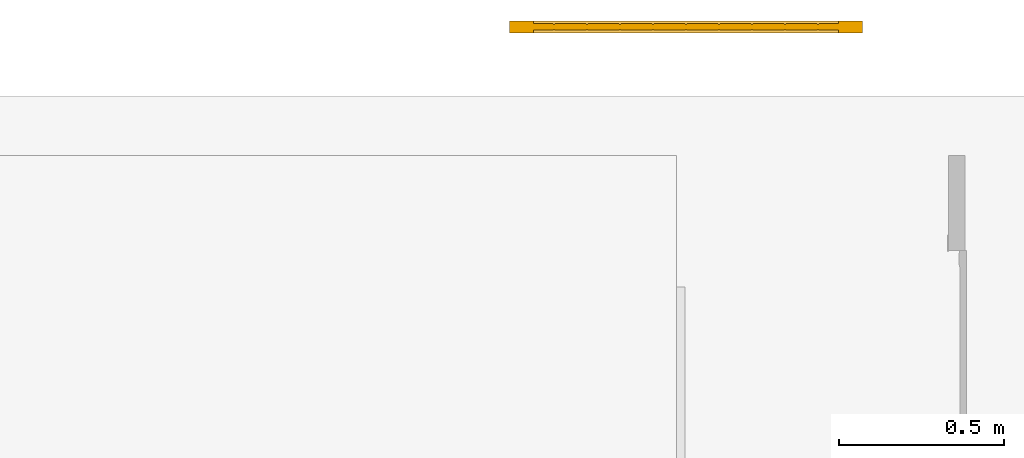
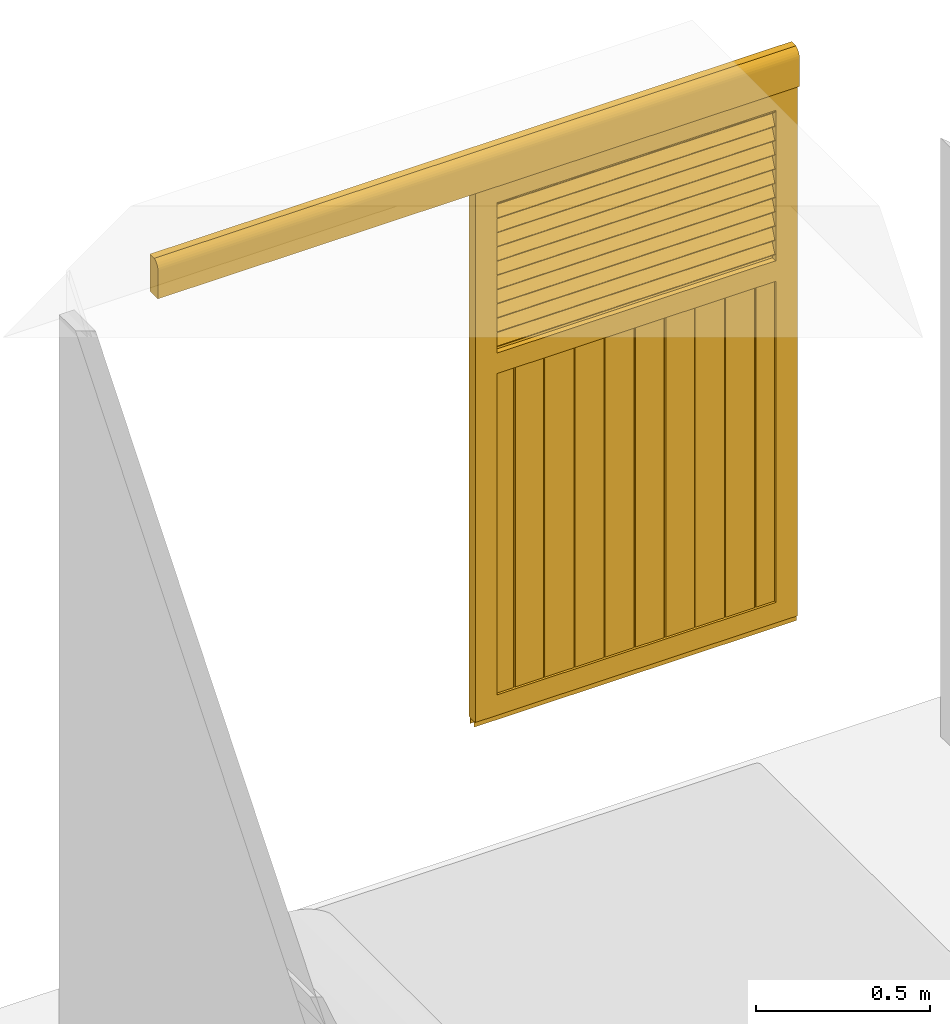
# One storey, part 8 of 11: 1 door.
"""IFC2X3 building model written with IfcOpenShell, lengths in metres."""

import ifcopenshell
import ifcopenshell.guid

model = None  # the IFC model being written
_history = None  # IfcOwnerHistory: only IFC2X3 demands one
_inside = {}  # id of a spatial element -> (the spatial element, [elements in it])
_under = {}  # id of a project, library or spatial element -> (it, [spatial elements below it])
_declared = {}  # id of a project -> (the project, [libraries it declares])
_typed = {}  # id of a type object -> (the type object, [elements of that type])
_made_of = {}  # id of a material, layer set ... -> (it, [elements and type objects made of it])


def new_model(schema):
    """Start an empty IFC model of exactly this schema.

    Asked for "IFC4X3", IfcOpenShell would pick the latest addendum, in which some entities
    have other attributes; the version numbers below select the first issue.
    IFC2X3 requires an IfcOwnerHistory on every rooted entity: one is made here for all.
    """
    global model, _history
    if schema == "IFC4X3":
        model = ifcopenshell.file(schema_version=(4, 3, 0, 0))
    else:
        model = ifcopenshell.file(schema=schema)
    _inside.clear()
    _under.clear()
    _declared.clear()
    _typed.clear()
    _made_of.clear()
    _history = None
    if model.schema == "IFC2X3":
        org = make("IfcOrganization", Name="unknown")
        user = make(
            "IfcPersonAndOrganization",
            ThePerson=make("IfcPerson", FamilyName="unknown"),
            TheOrganization=org,
        )
        app = make(
            "IfcApplication",
            ApplicationDeveloper=org,
            Version="unknown",
            ApplicationFullName="unknown",
            ApplicationIdentifier="unknown",
        )
        _history = make(
            "IfcOwnerHistory",
            OwningUser=user,
            OwningApplication=app,
            ChangeAction="ADDED",
            CreationDate=0,
        )
    return model


def make(cls, **values):
    """One entity of the class cls with the attributes given. An attribute that is None is left unset."""
    return model.create_entity(
        cls, **{name: value for name, value in values.items() if value is not None}
    )


def entity(cls, *values):
    """Any entity or typed value of the class cls, its attributes in the order of the schema. None: left unset."""
    e = model.create_entity(cls)
    for i, value in enumerate(values):
        if value is not None:
            e[i] = value
    return e


def rooted(cls, **values):
    """An entity with a GlobalId (a new one), such as an element, a storey or a relation."""
    return make(cls, GlobalId=ifcopenshell.guid.new(), OwnerHistory=_history, **values)


def si_unit(unit_type, name, prefix=None):
    """IfcSIUnit, for example si_unit("LENGTHUNIT", "METRE", prefix="MILLI")."""
    return make("IfcSIUnit", UnitType=unit_type, Prefix=prefix, Name=name)


def converted_unit(unit_type, name, factor, base, dimensions=None, offset=None):
    """IfcConversionBasedUnit, such as the inch: factor (a typed value) times the base unit."""
    return make(
        "IfcConversionBasedUnit"
        if offset is None
        else "IfcConversionBasedUnitWithOffset",
        ConversionOffset=offset,
        Dimensions=None
        if dimensions is None
        else entity("IfcDimensionalExponents", *dimensions),
        UnitType=unit_type,
        Name=name,
        ConversionFactor=make(
            "IfcMeasureWithUnit", ValueComponent=factor, UnitComponent=base
        ),
    )


def derived_unit(unit_type, elements):
    """IfcDerivedUnit: a product of units, each with its exponent."""
    return make(
        "IfcDerivedUnit",
        Elements=[
            make("IfcDerivedUnitElement", Unit=unit, Exponent=power)
            for unit, power in elements
        ],
        UnitType=unit_type,
    )


def assignment(units):
    """IfcUnitAssignment: the units of a project."""
    return None if units is None else make("IfcUnitAssignment", Units=units)


def point(xyz):
    """IfcCartesianPoint."""
    return None if xyz is None else make("IfcCartesianPoint", Coordinates=xyz)


def direction(xyz):
    """IfcDirection."""
    return None if xyz is None else make("IfcDirection", DirectionRatios=xyz)


def frame(location, z_axis=None, x_axis=None):
    """IfcAxis2Placement3D, a coordinate frame: its origin and axes. An axis left out is left unset."""
    return make(
        "IfcAxis2Placement3D",
        Location=point(location),
        Axis=direction(z_axis),
        RefDirection=direction(x_axis),
    )


def frame_2d(location, x_axis=None):
    """IfcAxis2Placement2D, a coordinate frame in the plane: its origin and x axis."""
    return make(
        "IfcAxis2Placement2D", Location=point(location), RefDirection=direction(x_axis)
    )


def origin():
    """The frame at (0, 0, 0) with its axes left unset."""
    return frame((0.0, 0.0, 0.0))


def origin_2d_with_axis():
    """The frame at (0, 0) in the plane with the x axis (1, 0) written out."""
    return frame_2d((0.0, 0.0), x_axis=(1.0, 0.0))


def place(relative_to, where):
    """IfcLocalPlacement: puts the frame where relative to a parent placement (None: the world)."""
    return make(
        "IfcLocalPlacement", PlacementRelTo=relative_to, RelativePlacement=where
    )


def context(
    kind, dimensions, precision=None, world=None, true_north=None, identifier=None
):
    """IfcGeometricRepresentationContext, for example the 3D "Model" context."""
    return make(
        "IfcGeometricRepresentationContext",
        ContextIdentifier=identifier,
        ContextType=kind,
        CoordinateSpaceDimension=dimensions,
        Precision=precision,
        WorldCoordinateSystem=world,
        TrueNorth=true_north,
    )


def subcontext(parent, identifier, kind, view, scale=None):
    """IfcGeometricRepresentationSubContext, for example "Body" below "Model"."""
    return make(
        "IfcGeometricRepresentationSubContext",
        ContextIdentifier=identifier,
        ContextType=kind,
        ParentContext=parent,
        TargetScale=scale,
        TargetView=view,
    )


def project(units=None, contexts=None):
    """IfcProject with its units and contexts."""
    return rooted(
        "IfcProject",
        Name="project",
        RepresentationContexts=contexts,
        UnitsInContext=assignment(units),
    )


def spatial(cls, under=None, at=None, **own):
    """A site, building, storey or space (cls), placed at a placement, below another one or the project."""
    s = rooted(cls, ObjectPlacement=at, **own)
    if under is not None:
        _under.setdefault(under.id(), (under, []))[1].append(s)
    return s


def polyline(points):
    """IfcPolyline through the points."""
    return make("IfcPolyline", Points=[point(p) for p in points])


def circle_curve(where, radius):
    """IfcCircle in the frame where."""
    return make("IfcCircle", Position=where, Radius=radius)


def parameter(value):
    """IfcParameterValue: where a trimmed curve begins or ends, as a parameter of its basis curve."""
    return model.create_entity("IfcParameterValue", value)


def trimmed(basis, trim1, trim2, sense, master):
    """IfcTrimmedCurve: the piece of a basis curve between two trims."""
    return make(
        "IfcTrimmedCurve",
        BasisCurve=basis,
        Trim1=trim1,
        Trim2=trim2,
        SenseAgreement=sense,
        MasterRepresentation=master,
    )


def segment(curve, same_sense, transition):
    """IfcCompositeCurveSegment."""
    return make(
        "IfcCompositeCurveSegment",
        Transition=transition,
        SameSense=same_sense,
        ParentCurve=curve,
    )


def composite_curve(segments, self_intersect=None):
    """IfcCompositeCurve: segments joined end to end."""
    return make("IfcCompositeCurve", Segments=segments, SelfIntersect=self_intersect)


def profile(cls, at=None, kind="AREA", **sizes):
    """A parametric profile (cls). Its sizes go by their IFC names, for example OverallWidth=200.0."""
    return make(cls, ProfileType=kind, Position=at, **sizes)


def rectangle(**sizes):
    """IfcRectangleProfileDef."""
    return profile("IfcRectangleProfileDef", **sizes)


def outline(outer, holes=None, kind="AREA"):
    """IfcArbitraryClosedProfileDef: a profile drawn as a closed curve; with holes, ...WithVoids."""
    if holes is None:
        return make("IfcArbitraryClosedProfileDef", ProfileType=kind, OuterCurve=outer)
    return make(
        "IfcArbitraryProfileDefWithVoids",
        ProfileType=kind,
        OuterCurve=outer,
        InnerCurves=holes,
    )


def extrude(swept, where, along, depth):
    """IfcExtrudedAreaSolid: the profile swept, set in the frame where, extruded along a direction by depth."""
    return make(
        "IfcExtrudedAreaSolid",
        SweptArea=swept,
        Position=where,
        ExtrudedDirection=direction(along),
        Depth=depth,
    )


def shape(context_of_items, identifier, shape_type, items):
    """IfcShapeRepresentation: the items that make up one representation, for example the "Body"."""
    return make(
        "IfcShapeRepresentation",
        ContextOfItems=context_of_items,
        RepresentationIdentifier=identifier,
        RepresentationType=shape_type,
        Items=items,
    )


def source(mapping_origin, context_of_items, identifier, shape_type, items):
    """IfcRepresentationMap: a shape defined once, which mapped items show again and again."""
    return make(
        "IfcRepresentationMap",
        MappingOrigin=mapping_origin,
        MappedRepresentation=shape(context_of_items, identifier, shape_type, items),
    )


def transform(
    local_origin,
    x_axis=None,
    y_axis=None,
    z_axis=None,
    scale=None,
    scale2=None,
    scale3=None,
    uniform=True,
):
    """IfcCartesianTransformationOperator3D, or its non-uniform kind. x_axis, y_axis, z_axis: its Axis1, 2, 3."""
    if uniform:
        return make(
            "IfcCartesianTransformationOperator3D",
            Axis1=direction(x_axis),
            Axis2=direction(y_axis),
            LocalOrigin=point(local_origin),
            Scale=scale,
            Axis3=direction(z_axis),
        )
    return make(
        "IfcCartesianTransformationOperator3DnonUniform",
        Axis1=direction(x_axis),
        Axis2=direction(y_axis),
        LocalOrigin=point(local_origin),
        Scale=scale,
        Axis3=direction(z_axis),
        Scale2=scale2,
        Scale3=scale3,
    )


def mapped(mapping_source, mapping_target):
    """IfcMappedItem: shows the shape of a source again, moved by a transform."""
    return make(
        "IfcMappedItem", MappingSource=mapping_source, MappingTarget=mapping_target
    )


def material(Name=None, Category=None):
    """IfcMaterial."""
    return make("IfcMaterial", Name=Name, Category=Category)


def made_of(thing, what):
    """Note that an element or type object is made of a material, layer set ...; save() writes the relation."""
    if what is not None:
        _made_of.setdefault(what.id(), (what, []))[1].append(thing)
    return thing


def type_object(cls, material=None, **own):
    """A type object (cls), such as IfcWallType, which elements share."""
    return made_of(rooted(cls, **own), material)


def type_shapes(of_type, sources):
    """Give a type object the sources (RepresentationMaps) that its elements show as mapped items."""
    of_type.RepresentationMaps = sources


def element(
    cls,
    number,
    at=None,
    inside=None,
    cuts=None,
    type_object=None,
    material=None,
    context=None,
    identifier="Body",
    shape_type=None,
    held_by="IfcProductDefinitionShape",
    body=None,
    shapes=None,
    **own,
):
    """One element of the class cls, such as IfcWall. Its Tag is "e" and its number.

    at: its placement. inside: the storey or other place that contains it. cuts: it is an
    opening in that element (IfcRelVoidsElement). A single representation is given by context,
    identifier, shape_type and body (its items); several are given by shapes. held_by: the class
    of the entity that holds the representations. save() writes the other relations.
    """
    e = rooted(cls, Tag="e%d" % number, ObjectPlacement=at, **own)
    if body is not None:
        shapes = [shape(context, identifier, shape_type, body)]
    if shapes is not None:
        e.Representation = make(held_by, Representations=shapes)
    if inside is not None:
        _inside.setdefault(inside.id(), (inside, []))[1].append(e)
    if cuts is not None:
        rooted(
            "IfcRelVoidsElement", RelatingBuildingElement=cuts, RelatedOpeningElement=e
        )
    if type_object is not None:
        _typed.setdefault(type_object.id(), (type_object, []))[1].append(e)
    return made_of(e, material)


def aggregate(whole, parts):
    """IfcRelAggregates: a whole, such as a stair, and the parts it consists of."""
    return rooted("IfcRelAggregates", RelatingObject=whole, RelatedObjects=parts)


def save(model, path):
    """Write the relations noted so far, then the file.

    IfcRelAggregates (storeys below a building ...), IfcRelContainedInSpatialStructure (elements
    in a storey), IfcRelDefinesByType, IfcRelAssociatesMaterial and IfcRelDeclares: one each for
    every whole, place, type object, material and project.
    """
    for whole, parts in _under.values():
        aggregate(whole, parts)
    for where, things in _inside.values():
        rooted(
            "IfcRelContainedInSpatialStructure",
            RelatedElements=things,
            RelatingStructure=where,
        )
    for kind, things in _typed.values():
        rooted("IfcRelDefinesByType", RelatedObjects=things, RelatingType=kind)
    for what, things in _made_of.values():
        rooted("IfcRelAssociatesMaterial", RelatedObjects=things, RelatingMaterial=what)
    for by, libraries in _declared.values():
        rooted("IfcRelDeclares", RelatingContext=by, RelatedDefinitions=libraries)
    model.write(path)


model = new_model("IFC2X3")

# Units and contexts
model_context = context("Model", 3, precision=1e-05, world=origin(), true_north=direction((6.12303176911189e-17, 1.0)))
body_context = subcontext(model_context, "Body", "Model", "MODEL_VIEW")
ifc_project = project(units=[si_unit("LENGTHUNIT", "METRE"), si_unit("AREAUNIT", "SQUARE_METRE"), si_unit("VOLUMEUNIT", "CUBIC_METRE"), converted_unit("PLANEANGLEUNIT", "DEGREE", entity("IfcRatioMeasure", 0.0174532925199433), si_unit("PLANEANGLEUNIT", "RADIAN"), dimensions=[0, 0, 0, 0, 0, 0, 0]), si_unit("MASSUNIT", "GRAM", prefix="KILO"), derived_unit("MASSDENSITYUNIT", [(si_unit("MASSUNIT", "GRAM", prefix="KILO"), 1), (si_unit("LENGTHUNIT", "METRE"), -3)]), derived_unit("MOMENTOFINERTIAUNIT", [(si_unit("LENGTHUNIT", "METRE"), 4)]), si_unit("TIMEUNIT", "SECOND"), si_unit("FREQUENCYUNIT", "HERTZ"), si_unit("THERMODYNAMICTEMPERATUREUNIT", "DEGREE_CELSIUS"), derived_unit("THERMALTRANSMITTANCEUNIT", [(si_unit("MASSUNIT", "GRAM", prefix="KILO"), 1), (si_unit("THERMODYNAMICTEMPERATUREUNIT", "KELVIN"), -1), (si_unit("TIMEUNIT", "SECOND"), -3)]), derived_unit("VOLUMETRICFLOWRATEUNIT", [(si_unit("LENGTHUNIT", "METRE"), 3), (si_unit("TIMEUNIT", "SECOND"), -1)]), si_unit("ELECTRICCURRENTUNIT", "AMPERE"), si_unit("ELECTRICVOLTAGEUNIT", "VOLT"), si_unit("POWERUNIT", "WATT"), si_unit("FORCEUNIT", "NEWTON", prefix="KILO"), si_unit("ILLUMINANCEUNIT", "LUX"), si_unit("LUMINOUSFLUXUNIT", "LUMEN"), si_unit("LUMINOUSINTENSITYUNIT", "CANDELA"), derived_unit("USERDEFINED", [(si_unit("MASSUNIT", "GRAM", prefix="KILO"), -1), (si_unit("LENGTHUNIT", "METRE"), -2), (si_unit("TIMEUNIT", "SECOND"), 3), (si_unit("LUMINOUSFLUXUNIT", "LUMEN"), 1)]), derived_unit("LINEARVELOCITYUNIT", [(si_unit("LENGTHUNIT", "METRE"), 1), (si_unit("TIMEUNIT", "SECOND"), -1)]), si_unit("PRESSUREUNIT", "PASCAL"), derived_unit("USERDEFINED", [(si_unit("LENGTHUNIT", "METRE"), -2), (si_unit("MASSUNIT", "GRAM", prefix="KILO"), 1), (si_unit("TIMEUNIT", "SECOND"), -2)]), derived_unit("LINEARFORCEUNIT", [(si_unit("MASSUNIT", "GRAM", prefix="KILO"), 1), (si_unit("LENGTHUNIT", "METRE"), 1), (si_unit("TIMEUNIT", "SECOND"), -2), (si_unit("LENGTHUNIT", "METRE"), -1)]), derived_unit("PLANARFORCEUNIT", [(si_unit("MASSUNIT", "GRAM", prefix="KILO"), 1), (si_unit("LENGTHUNIT", "METRE"), 1), (si_unit("TIMEUNIT", "SECOND"), -2), (si_unit("LENGTHUNIT", "METRE"), -2)])], contexts=[model_context])

# Site, building, storey
site_placement = place(None, origin())
site = spatial("IfcSite", under=ifc_project, at=site_placement, Name="Surface", CompositionType="ELEMENT")
building_placement = place(site_placement, origin())
building = spatial("IfcBuilding", under=site, at=building_placement, CompositionType="ELEMENT")
storey_placement = place(building_placement, frame((0.0, 0.0, 2.72)))
storey = spatial("IfcBuildingStorey", under=building, at=storey_placement, Name="02 ETG", CompositionType="ELEMENT", Elevation=2.72)

# Door
ifc_material = material(Name="FF bois RAL 5014")
door_style = type_object("IfcDoorStyle", Name="Volet coulissant ONDEA 1 vantail simple rail:Bois \"CONCEPTION WESTERN UNIQUEMENT\"", ConstructionType="NOTDEFINED", OperationType="NOTDEFINED", ParameterTakesPrecedence=False, Sizeable=False, material=ifc_material)
shared_shape = source(origin(), body_context, "Body", "SweptSolid", [
    extrude(outline(composite_curve([segment(trimmed(circle_curve(frame_2d((0.00932408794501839, 0.0279999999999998), x_axis=(1.0, 0.0)), 0.0319253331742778), [parameter(110.000000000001)], [parameter(180.0)], True, "PARAMETER"), True, "CONTINUOUS"), segment(polyline([(-0.0226012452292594, 0.0279999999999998), (-0.0226012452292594, -0.0719999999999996)]), True, "CONTINUOUS"), segment(polyline([(-0.0226012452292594, -0.0719999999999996), (0.0233987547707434, -0.0719999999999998)]), True, "CONTINUOUS"), segment(polyline([(0.0233987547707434, -0.0719999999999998), (0.0233987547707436, 0.0580000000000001)]), True, "CONTINUOUS"), segment(polyline([(0.0233987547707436, 0.0580000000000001), (-0.00159501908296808, 0.0580000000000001)]), True, "CONTINUOUS")], self_intersect=False)), frame((-1.0655, -0.0233987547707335, 1.972), z_axis=(1.0, 0.0, 0.0), x_axis=(0.0, 1.0, 0.0)), (0.0, 0.0, 1.0), 0.00300000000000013),
    extrude(outline(composite_curve([segment(trimmed(circle_curve(frame_2d((0.00932408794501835, 0.0279999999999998), x_axis=(1.0, 0.0)), 0.0319253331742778), [parameter(110.000000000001)], [parameter(180.0)], True, "PARAMETER"), True, "CONTINUOUS"), segment(polyline([(-0.0226012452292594, 0.0279999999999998), (-0.0226012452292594, -0.0719999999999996)]), True, "CONTINUOUS"), segment(polyline([(-0.0226012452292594, -0.0719999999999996), (0.0233987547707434, -0.0719999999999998)]), True, "CONTINUOUS"), segment(polyline([(0.0233987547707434, -0.0719999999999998), (0.0233987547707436, 0.0580000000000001)]), True, "CONTINUOUS"), segment(polyline([(0.0233987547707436, 0.0580000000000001), (-0.00159501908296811, 0.0580000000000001)]), True, "CONTINUOUS")], self_intersect=False)), frame((1.0625, -0.0233987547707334, 1.972), z_axis=(1.0, 0.0, 0.0), x_axis=(0.0, 1.0, 0.0)), (0.0, 0.0, 1.0), 0.0030000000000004),
    extrude(outline(composite_curve([segment(polyline([(0.0202215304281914, -0.0466666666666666), (0.0232215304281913, -0.0466666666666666)]), True, "CONTINUOUS"), segment(polyline([(0.0232215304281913, -0.0466666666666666), (0.0232215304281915, 0.0833333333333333)]), True, "CONTINUOUS"), segment(polyline([(0.0232215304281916, 0.0833333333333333), (-0.00177224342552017, 0.0833333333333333)]), True, "CONTINUOUS"), segment(trimmed(circle_curve(frame_2d((0.0091468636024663, 0.053333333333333), x_axis=(1.0, 0.0)), 0.0319253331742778), [parameter(110.0)], [parameter(179.999999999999)], True, "PARAMETER"), True, "CONTINUOUS"), segment(polyline([(-0.0227784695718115, 0.0533333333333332), (-0.0227784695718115, -0.0466666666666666)]), True, "CONTINUOUS"), segment(polyline([(-0.0227784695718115, -0.0466666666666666), (-0.0197784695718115, -0.0466666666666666)]), True, "CONTINUOUS"), segment(polyline([(-0.0197784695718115, -0.0466666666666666), (-0.0197784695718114, -0.0166666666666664)]), True, "CONTINUOUS"), segment(polyline([(-0.0197784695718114, -0.0166666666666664), (0.0202215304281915, -0.0166666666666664)]), True, "CONTINUOUS"), segment(polyline([(0.0202215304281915, -0.0166666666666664), (0.0202215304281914, -0.0466666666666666)]), True, "CONTINUOUS")], self_intersect=False)), frame((-1.0625, -0.0232215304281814, 1.94666666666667), z_axis=(1.0, 0.0, 0.0), x_axis=(0.0, 1.0, 0.0)), (0.0, 0.0, 1.0), 2.125),
    extrude(outline(composite_curve([segment(trimmed(circle_curve(frame_2d((0.00499999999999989, 0.0049999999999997), x_axis=(1.0, 0.0)), 0.00499999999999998), [parameter(90.0000000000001)], [parameter(180.0)], True, "PARAMETER"), True, "CONTINUOUS"), segment(trimmed(circle_curve(frame_2d((-0.00500000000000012, 0.0049999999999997), x_axis=(1.0, 0.0)), 0.00499999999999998), [parameter(5.08888749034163e-14)], [parameter(90.0000000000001)], True, "PARAMETER"), True, "CONTINUOUS"), segment(polyline([(-0.00500000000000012, 0.00999999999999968), (-0.0950000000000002, 0.00999999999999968)]), True, "CONTINUOUS"), segment(trimmed(circle_curve(frame_2d((-0.0950000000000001, 0.0049999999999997), x_axis=(1.0, 0.0)), 0.00499999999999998), [parameter(90.0000000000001)], [parameter(180.0)], True, "PARAMETER"), True, "CONTINUOUS"), segment(trimmed(circle_curve(frame_2d((-0.105, 0.00500000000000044), x_axis=(1.0, 0.0)), 0.00499999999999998), [parameter(5.08888749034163e-14)], [parameter(90.0000000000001)], True, "PARAMETER"), True, "CONTINUOUS"), segment(polyline([(-0.105, 0.0100000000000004), (-0.195, 0.0100000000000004)]), True, "CONTINUOUS"), segment(trimmed(circle_curve(frame_2d((-0.195, 0.00500000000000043), x_axis=(1.0, 0.0)), 0.00499999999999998), [parameter(90.0000000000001)], [parameter(180.0)], True, "PARAMETER"), True, "CONTINUOUS"), segment(trimmed(circle_curve(frame_2d((-0.205, 0.00499999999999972), x_axis=(1.0, 0.0)), 0.00499999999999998), [parameter(5.08888749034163e-14)], [parameter(90.0000000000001)], True, "PARAMETER"), True, "CONTINUOUS"), segment(polyline([(-0.205, 0.0099999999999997), (-0.295, 0.00999999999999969)]), True, "CONTINUOUS"), segment(trimmed(circle_curve(frame_2d((-0.295, 0.00499999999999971), x_axis=(1.0, 0.0)), 0.00499999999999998), [parameter(90.0000000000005)], [parameter(180.0)], True, "PARAMETER"), True, "CONTINUOUS"), segment(trimmed(circle_curve(frame_2d((-0.305, 0.00500000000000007), x_axis=(1.0, 0.0)), 0.00499999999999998), [parameter(5.08888749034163e-14)], [parameter(90.0000000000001)], True, "PARAMETER"), True, "CONTINUOUS"), segment(polyline([(-0.305, 0.01), (-0.395, 0.01)]), True, "CONTINUOUS"), segment(trimmed(circle_curve(frame_2d((-0.395, 0.00500000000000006), x_axis=(1.0, 0.0)), 0.00499999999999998), [parameter(90.0000000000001)], [parameter(180.0)], True, "PARAMETER"), True, "CONTINUOUS"), segment(trimmed(circle_curve(frame_2d((-0.405, 0.00499999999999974), x_axis=(1.0, 0.0)), 0.00499999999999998), [parameter(5.08888749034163e-14)], [parameter(90.0000000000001)], True, "PARAMETER"), True, "CONTINUOUS"), segment(polyline([(-0.405, 0.00999999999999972), (-0.462999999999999, 0.00999999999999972)]), True, "CONTINUOUS"), segment(polyline([(-0.462999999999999, 0.00999999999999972), (-0.462999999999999, -0.00999999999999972)]), True, "CONTINUOUS"), segment(polyline([(-0.462999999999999, -0.00999999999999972), (-0.405, -0.00999999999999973)]), True, "CONTINUOUS"), segment(trimmed(circle_curve(frame_2d((-0.405, -0.00499999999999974), x_axis=(1.0, 0.0)), 0.00499999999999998), [parameter(270.0)], [parameter(360.0)], True, "PARAMETER"), True, "CONTINUOUS"), segment(trimmed(circle_curve(frame_2d((-0.395, -0.00500000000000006), x_axis=(1.0, 0.0)), 0.00499999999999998), [parameter(180.0)], [parameter(270.0)], True, "PARAMETER"), True, "CONTINUOUS"), segment(polyline([(-0.395, -0.01), (-0.305, -0.0100000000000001)]), True, "CONTINUOUS"), segment(trimmed(circle_curve(frame_2d((-0.305, -0.00500000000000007), x_axis=(1.0, 0.0)), 0.00499999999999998), [parameter(270.0)], [parameter(360.0)], True, "PARAMETER"), True, "CONTINUOUS"), segment(trimmed(circle_curve(frame_2d((-0.295, -0.00499999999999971), x_axis=(1.0, 0.0)), 0.00499999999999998), [parameter(180.0)], [parameter(269.999999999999)], True, "PARAMETER"), True, "CONTINUOUS"), segment(polyline([(-0.295, -0.00999999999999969), (-0.205, -0.0099999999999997)]), True, "CONTINUOUS"), segment(trimmed(circle_curve(frame_2d((-0.205, -0.00499999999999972), x_axis=(1.0, 0.0)), 0.00499999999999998), [parameter(270.0)], [parameter(360.0)], True, "PARAMETER"), True, "CONTINUOUS"), segment(trimmed(circle_curve(frame_2d((-0.195, -0.00500000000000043), x_axis=(1.0, 0.0)), 0.00499999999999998), [parameter(180.0)], [parameter(270.0)], True, "PARAMETER"), True, "CONTINUOUS"), segment(polyline([(-0.195, -0.0100000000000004), (-0.105, -0.0100000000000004)]), True, "CONTINUOUS"), segment(trimmed(circle_curve(frame_2d((-0.105, -0.00500000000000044), x_axis=(1.0, 0.0)), 0.00499999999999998), [parameter(270.0)], [parameter(360.0)], True, "PARAMETER"), True, "CONTINUOUS"), segment(trimmed(circle_curve(frame_2d((-0.0950000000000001, -0.0049999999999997), x_axis=(1.0, 0.0)), 0.00499999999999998), [parameter(180.0)], [parameter(270.0)], True, "PARAMETER"), True, "CONTINUOUS"), segment(polyline([(-0.0950000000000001, -0.00999999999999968), (-0.00500000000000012, -0.00999999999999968)]), True, "CONTINUOUS"), segment(trimmed(circle_curve(frame_2d((-0.00500000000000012, -0.0049999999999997), x_axis=(1.0, 0.0)), 0.00499999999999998), [parameter(270.0)], [parameter(360.0)], True, "PARAMETER"), True, "CONTINUOUS"), segment(trimmed(circle_curve(frame_2d((0.00499999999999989, -0.0049999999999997), x_axis=(1.0, 0.0)), 0.00499999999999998), [parameter(180.0)], [parameter(270.0)], True, "PARAMETER"), True, "CONTINUOUS"), segment(polyline([(0.00499999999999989, -0.00999999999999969), (0.0949999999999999, -0.00999999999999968)]), True, "CONTINUOUS"), segment(trimmed(circle_curve(frame_2d((0.0949999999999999, -0.0049999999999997), x_axis=(1.0, 0.0)), 0.00499999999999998), [parameter(270.0)], [parameter(1.01777749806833e-13)], True, "PARAMETER"), True, "CONTINUOUS"), segment(trimmed(circle_curve(frame_2d((0.105, -0.00500000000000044), x_axis=(1.0, 0.0)), 0.00499999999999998), [parameter(180.0)], [parameter(269.999999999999)], True, "PARAMETER"), True, "CONTINUOUS"), segment(polyline([(0.105, -0.0100000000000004), (0.195, -0.0100000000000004)]), True, "CONTINUOUS"), segment(trimmed(circle_curve(frame_2d((0.195, -0.00500000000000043), x_axis=(1.0, 0.0)), 0.00499999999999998), [parameter(270.0)], [parameter(1.01777749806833e-13)], True, "PARAMETER"), True, "CONTINUOUS"), segment(trimmed(circle_curve(frame_2d((0.205, -0.00499999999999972), x_axis=(1.0, 0.0)), 0.00499999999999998), [parameter(180.0)], [parameter(269.999999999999)], True, "PARAMETER"), True, "CONTINUOUS"), segment(polyline([(0.205, -0.0099999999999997), (0.295, -0.00999999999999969)]), True, "CONTINUOUS"), segment(trimmed(circle_curve(frame_2d((0.295, -0.00499999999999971), x_axis=(1.0, 0.0)), 0.00499999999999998), [parameter(270.0)], [parameter(1.01777749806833e-13)], True, "PARAMETER"), True, "CONTINUOUS"), segment(trimmed(circle_curve(frame_2d((0.305, -0.00500000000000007), x_axis=(1.0, 0.0)), 0.00499999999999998), [parameter(180.0)], [parameter(270.0)], True, "PARAMETER"), True, "CONTINUOUS"), segment(polyline([(0.305, -0.0100000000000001), (0.395, -0.01)]), True, "CONTINUOUS"), segment(trimmed(circle_curve(frame_2d((0.395, -0.00500000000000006), x_axis=(1.0, 0.0)), 0.00499999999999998), [parameter(270.0)], [parameter(1.01777749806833e-13)], True, "PARAMETER"), True, "CONTINUOUS"), segment(trimmed(circle_curve(frame_2d((0.405, -0.00499999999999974), x_axis=(1.0, 0.0)), 0.00499999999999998), [parameter(180.0)], [parameter(270.0)], True, "PARAMETER"), True, "CONTINUOUS"), segment(polyline([(0.405, -0.00999999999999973), (0.463000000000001, -0.00999999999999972)]), True, "CONTINUOUS"), segment(polyline([(0.463000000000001, -0.00999999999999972), (0.463000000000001, 0.00999999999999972)]), True, "CONTINUOUS"), segment(polyline([(0.463000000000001, 0.00999999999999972), (0.405, 0.00999999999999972)]), True, "CONTINUOUS"), segment(trimmed(circle_curve(frame_2d((0.405, 0.00499999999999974), x_axis=(1.0, 0.0)), 0.00499999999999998), [parameter(90.0000000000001)], [parameter(180.0)], True, "PARAMETER"), True, "CONTINUOUS"), segment(trimmed(circle_curve(frame_2d((0.395, 0.00500000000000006), x_axis=(1.0, 0.0)), 0.00499999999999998), [parameter(360.0)], [parameter(90.0000000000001)], True, "PARAMETER"), True, "CONTINUOUS"), segment(polyline([(0.395, 0.01), (0.305, 0.01)]), True, "CONTINUOUS"), segment(trimmed(circle_curve(frame_2d((0.305, 0.00500000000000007), x_axis=(1.0, 0.0)), 0.00499999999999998), [parameter(90.0000000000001)], [parameter(180.0)], True, "PARAMETER"), True, "CONTINUOUS"), segment(trimmed(circle_curve(frame_2d((0.295, 0.00499999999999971), x_axis=(1.0, 0.0)), 0.00499999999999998), [parameter(360.0)], [parameter(89.9999999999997)], True, "PARAMETER"), True, "CONTINUOUS"), segment(polyline([(0.295, 0.00999999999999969), (0.205, 0.0099999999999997)]), True, "CONTINUOUS"), segment(trimmed(circle_curve(frame_2d((0.205, 0.00499999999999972), x_axis=(1.0, 0.0)), 0.00499999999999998), [parameter(90.0000000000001)], [parameter(180.0)], True, "PARAMETER"), True, "CONTINUOUS"), segment(trimmed(circle_curve(frame_2d((0.195, 0.00500000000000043), x_axis=(1.0, 0.0)), 0.00499999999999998), [parameter(360.0)], [parameter(89.9999999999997)], True, "PARAMETER"), True, "CONTINUOUS"), segment(polyline([(0.195, 0.0100000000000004), (0.105, 0.0100000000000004)]), True, "CONTINUOUS"), segment(trimmed(circle_curve(frame_2d((0.105, 0.00500000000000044), x_axis=(1.0, 0.0)), 0.00499999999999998), [parameter(90.0000000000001)], [parameter(180.0)], True, "PARAMETER"), True, "CONTINUOUS"), segment(trimmed(circle_curve(frame_2d((0.0949999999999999, 0.0049999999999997), x_axis=(1.0, 0.0)), 0.00499999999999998), [parameter(360.0)], [parameter(89.9999999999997)], True, "PARAMETER"), True, "CONTINUOUS"), segment(polyline([(0.0949999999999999, 0.00999999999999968), (0.00499999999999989, 0.00999999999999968)]), True, "CONTINUOUS")], self_intersect=False)), frame((0.527499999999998, -0.0210000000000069, 0.0379999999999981)), (0.0, 0.0, 1.0), 1.236),
    extrude(rectangle(XDim=0.926, YDim=0.02, at=origin_2d_with_axis()), frame((0.527500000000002, -0.0210000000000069, 1.274), z_axis=(0.0, 0.0, 1.0), x_axis=(-1.0, 0.0, 0.0)), (0.0, 0.0, 1.0), 0.00195001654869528),
    extrude(outline(composite_curve([segment(polyline([(-0.0237500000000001, -0.00350000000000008), (0.02375, -0.00350000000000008)]), True, "CONTINUOUS"), segment(trimmed(circle_curve(frame_2d((0.0237499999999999, 0.0), x_axis=(-0.388057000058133, 0.921635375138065)), 0.00350000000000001), [parameter(157.166345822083)], [parameter(337.166345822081)], True, "PARAMETER"), True, "CONTINUOUS"), segment(polyline([(0.0237499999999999, 0.00349999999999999), (-0.0237500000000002, 0.00349999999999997)]), True, "CONTINUOUS"), segment(trimmed(circle_curve(frame_2d((-0.0237500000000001, 0.0), x_axis=(-0.388057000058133, 0.921635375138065)), 0.00350000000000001), [parameter(337.166345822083)], [parameter(157.166345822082)], True, "PARAMETER"), True, "CONTINUOUS")], self_intersect=False)), frame((0.0645000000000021, -0.021000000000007, 1.85125), z_axis=(1.0, 0.0, 0.0), x_axis=(0.0, -0.388057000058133, -0.921635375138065)), (0.0, 0.0, 1.0), 0.926),
    extrude(outline(composite_curve([segment(polyline([(-0.0237500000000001, -0.00350000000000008), (0.02375, -0.00350000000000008)]), True, "CONTINUOUS"), segment(trimmed(circle_curve(frame_2d((0.0237500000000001, 0.0), x_axis=(-0.388057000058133, 0.921635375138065)), 0.00350000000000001), [parameter(157.166345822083)], [parameter(337.166345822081)], True, "PARAMETER"), True, "CONTINUOUS"), segment(polyline([(0.0237500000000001, 0.00350000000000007), (-0.02375, 0.00350000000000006)]), True, "CONTINUOUS"), segment(trimmed(circle_curve(frame_2d((-0.0237499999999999, 0.0), x_axis=(-0.388057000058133, 0.921635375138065)), 0.00350000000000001), [parameter(337.166345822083)], [parameter(157.166345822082)], True, "PARAMETER"), True, "CONTINUOUS")], self_intersect=False)), frame((0.0645000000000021, -0.021000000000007, 1.80125), z_axis=(1.0, 0.0, 0.0), x_axis=(0.0, -0.388057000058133, -0.921635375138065)), (0.0, 0.0, 1.0), 0.926),
    extrude(outline(composite_curve([segment(polyline([(-0.0237500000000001, -0.00350000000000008), (0.02375, -0.00350000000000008)]), True, "CONTINUOUS"), segment(trimmed(circle_curve(frame_2d((0.0237500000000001, 0.0), x_axis=(-0.388057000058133, 0.921635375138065)), 0.00350000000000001), [parameter(157.166345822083)], [parameter(337.166345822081)], True, "PARAMETER"), True, "CONTINUOUS"), segment(polyline([(0.0237500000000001, 0.00350000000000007), (-0.02375, 0.00350000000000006)]), True, "CONTINUOUS"), segment(trimmed(circle_curve(frame_2d((-0.0237499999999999, 0.0), x_axis=(-0.388057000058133, 0.921635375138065)), 0.00350000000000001), [parameter(337.166345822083)], [parameter(157.166345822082)], True, "PARAMETER"), True, "CONTINUOUS")], self_intersect=False)), frame((0.0645000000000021, -0.021000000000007, 1.75125), z_axis=(1.0, 0.0, 0.0), x_axis=(0.0, -0.388057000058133, -0.921635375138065)), (0.0, 0.0, 1.0), 0.926),
    extrude(outline(composite_curve([segment(polyline([(-0.0237499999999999, -0.00349999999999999), (0.0237500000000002, -0.00349999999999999)]), True, "CONTINUOUS"), segment(trimmed(circle_curve(frame_2d((0.0237500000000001, 0.0), x_axis=(-0.388057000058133, 0.921635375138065)), 0.00350000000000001), [parameter(157.166345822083)], [parameter(337.166345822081)], True, "PARAMETER"), True, "CONTINUOUS"), segment(polyline([(0.0237500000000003, 0.00350000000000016), (-0.0237499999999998, 0.00350000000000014)]), True, "CONTINUOUS"), segment(trimmed(circle_curve(frame_2d((-0.0237499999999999, 0.0), x_axis=(-0.388057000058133, 0.921635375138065)), 0.00350000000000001), [parameter(337.166345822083)], [parameter(157.166345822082)], True, "PARAMETER"), True, "CONTINUOUS")], self_intersect=False)), frame((0.0645000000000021, -0.021000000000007, 1.70125), z_axis=(1.0, 0.0, 0.0), x_axis=(0.0, -0.388057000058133, -0.921635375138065)), (0.0, 0.0, 1.0), 0.926),
    extrude(outline(composite_curve([segment(polyline([(-0.0237500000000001, -0.00350000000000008), (0.02375, -0.00350000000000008)]), True, "CONTINUOUS"), segment(trimmed(circle_curve(frame_2d((0.0237499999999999, 0.0), x_axis=(-0.388057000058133, 0.921635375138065)), 0.00350000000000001), [parameter(157.166345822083)], [parameter(337.166345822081)], True, "PARAMETER"), True, "CONTINUOUS"), segment(polyline([(0.0237500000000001, 0.00350000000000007), (-0.02375, 0.00350000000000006)]), True, "CONTINUOUS"), segment(trimmed(circle_curve(frame_2d((-0.0237500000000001, 0.0), x_axis=(-0.388057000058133, 0.921635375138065)), 0.00350000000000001), [parameter(337.166345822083)], [parameter(157.166345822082)], True, "PARAMETER"), True, "CONTINUOUS")], self_intersect=False)), frame((0.0645000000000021, -0.021000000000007, 1.65125), z_axis=(1.0, 0.0, 0.0), x_axis=(0.0, -0.388057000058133, -0.921635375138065)), (0.0, 0.0, 1.0), 0.926),
    extrude(outline(composite_curve([segment(polyline([(-0.0237499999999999, -0.0035), (0.0237500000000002, -0.00349999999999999)]), True, "CONTINUOUS"), segment(trimmed(circle_curve(frame_2d((0.0237500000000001, 0.0), x_axis=(-0.388057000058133, 0.921635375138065)), 0.00350000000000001), [parameter(157.166345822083)], [parameter(337.166345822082)], True, "PARAMETER"), True, "CONTINUOUS"), segment(polyline([(0.0237500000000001, 0.00350000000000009), (-0.0237499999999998, 0.00350000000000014)]), True, "CONTINUOUS"), segment(trimmed(circle_curve(frame_2d((-0.0237499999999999, 0.0), x_axis=(-0.388057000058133, 0.921635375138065)), 0.00350000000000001), [parameter(337.166345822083)], [parameter(157.166345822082)], True, "PARAMETER"), True, "CONTINUOUS")], self_intersect=False)), frame((0.0645000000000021, -0.021000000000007, 1.60125), z_axis=(1.0, 0.0, 0.0), x_axis=(0.0, -0.388057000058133, -0.921635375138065)), (0.0, 0.0, 1.0), 0.926),
    extrude(outline(composite_curve([segment(polyline([(-0.0237499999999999, -0.0035), (0.0237500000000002, -0.00349999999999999)]), True, "CONTINUOUS"), segment(trimmed(circle_curve(frame_2d((0.0237500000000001, 0.0), x_axis=(-0.388057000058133, 0.921635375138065)), 0.00350000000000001), [parameter(157.166345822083)], [parameter(337.166345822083)], True, "PARAMETER"), True, "CONTINUOUS"), segment(polyline([(0.0237500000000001, 0.00350000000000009), (-0.02375, 0.00350000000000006)]), True, "CONTINUOUS"), segment(trimmed(circle_curve(frame_2d((-0.0237499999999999, 0.0), x_axis=(-0.388057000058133, 0.921635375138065)), 0.00350000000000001), [parameter(337.166345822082)], [parameter(157.166345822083)], True, "PARAMETER"), True, "CONTINUOUS")], self_intersect=False)), frame((0.0645000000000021, -0.021000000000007, 1.55125), z_axis=(1.0, 0.0, 0.0), x_axis=(0.0, -0.388057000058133, -0.921635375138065)), (0.0, 0.0, 1.0), 0.926),
    extrude(outline(composite_curve([segment(polyline([(-0.0237500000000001, -0.00350000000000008), (0.02375, -0.00350000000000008)]), True, "CONTINUOUS"), segment(trimmed(circle_curve(frame_2d((0.0237500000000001, 0.0), x_axis=(-0.388057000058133, 0.921635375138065)), 0.00350000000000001), [parameter(157.166345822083)], [parameter(337.166345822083)], True, "PARAMETER"), True, "CONTINUOUS"), segment(polyline([(0.0237500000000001, 0.00350000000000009), (-0.02375, 0.00350000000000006)]), True, "CONTINUOUS"), segment(trimmed(circle_curve(frame_2d((-0.0237499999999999, 0.0), x_axis=(-0.388057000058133, 0.921635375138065)), 0.00350000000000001), [parameter(337.166345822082)], [parameter(157.166345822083)], True, "PARAMETER"), True, "CONTINUOUS")], self_intersect=False)), frame((0.0645000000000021, -0.021000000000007, 1.50125), z_axis=(1.0, 0.0, 0.0), x_axis=(0.0, -0.388057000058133, -0.921635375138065)), (0.0, 0.0, 1.0), 0.926),
    extrude(outline(composite_curve([segment(polyline([(-0.0237499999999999, -0.0035), (0.0237500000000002, -0.00349999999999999)]), True, "CONTINUOUS"), segment(trimmed(circle_curve(frame_2d((0.0237500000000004, 0.0), x_axis=(-0.388057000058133, 0.921635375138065)), 0.00350000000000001), [parameter(157.166345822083)], [parameter(337.166345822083)], True, "PARAMETER"), True, "CONTINUOUS"), segment(polyline([(0.0237500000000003, 0.00350000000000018), (-0.0237499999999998, 0.00350000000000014)]), True, "CONTINUOUS"), segment(trimmed(circle_curve(frame_2d((-0.0237499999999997, 0.0), x_axis=(-0.388057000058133, 0.921635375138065)), 0.00350000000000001), [parameter(337.166345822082)], [parameter(157.166345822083)], True, "PARAMETER"), True, "CONTINUOUS")], self_intersect=False)), frame((0.0645000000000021, -0.021000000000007, 1.45125), z_axis=(1.0, 0.0, 0.0), x_axis=(0.0, -0.388057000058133, -0.921635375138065)), (0.0, 0.0, 1.0), 0.926),
    extrude(outline(composite_curve([segment(polyline([(-0.0237499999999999, -0.0035), (0.0237500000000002, -0.00349999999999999)]), True, "CONTINUOUS"), segment(trimmed(circle_curve(frame_2d((0.0237500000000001, 0.0), x_axis=(-0.388057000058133, 0.921635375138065)), 0.00350000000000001), [parameter(157.166345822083)], [parameter(337.166345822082)], True, "PARAMETER"), True, "CONTINUOUS"), segment(polyline([(0.0237500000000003, 0.00350000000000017), (-0.0237499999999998, 0.00350000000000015)]), True, "CONTINUOUS"), segment(trimmed(circle_curve(frame_2d((-0.0237499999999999, 0.0), x_axis=(-0.388057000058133, 0.921635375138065)), 0.00350000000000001), [parameter(337.166345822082)], [parameter(157.166345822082)], True, "PARAMETER"), True, "CONTINUOUS")], self_intersect=False)), frame((0.0645000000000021, -0.021000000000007, 1.40125), z_axis=(1.0, 0.0, 0.0), x_axis=(0.0, -0.388057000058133, -0.921635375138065)), (0.0, 0.0, 1.0), 0.925999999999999),
    extrude(outline(composite_curve([segment(polyline([(-0.0237499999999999, -0.0035), (0.0237500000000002, -0.00349999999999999)]), True, "CONTINUOUS"), segment(trimmed(circle_curve(frame_2d((0.0237500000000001, 0.0), x_axis=(-0.388057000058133, 0.921635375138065)), 0.00350000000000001), [parameter(157.166345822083)], [parameter(337.166345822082)], True, "PARAMETER"), True, "CONTINUOUS"), segment(polyline([(0.0237500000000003, 0.00350000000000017), (-0.0237499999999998, 0.00350000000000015)]), True, "CONTINUOUS"), segment(trimmed(circle_curve(frame_2d((-0.0237499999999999, 0.0), x_axis=(-0.388057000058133, 0.921635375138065)), 0.00350000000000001), [parameter(337.166345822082)], [parameter(157.166345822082)], True, "PARAMETER"), True, "CONTINUOUS")], self_intersect=False)), frame((0.0645000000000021, -0.021000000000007, 1.35125), z_axis=(1.0, 0.0, 0.0), x_axis=(0.0, -0.388057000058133, -0.921635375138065)), (0.0, 0.0, 1.0), 0.925999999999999),
    extrude(outline(composite_curve([segment(polyline([(-0.0237499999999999, -0.0035), (0.0237500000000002, -0.00349999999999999)]), True, "CONTINUOUS"), segment(trimmed(circle_curve(frame_2d((0.0237500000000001, 0.0), x_axis=(-0.388057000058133, 0.921635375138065)), 0.00350000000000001), [parameter(157.166345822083)], [parameter(337.166345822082)], True, "PARAMETER"), True, "CONTINUOUS"), segment(polyline([(0.0237500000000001, 0.00350000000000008), (-0.02375, 0.00350000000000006)]), True, "CONTINUOUS"), segment(trimmed(circle_curve(frame_2d((-0.0237499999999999, 0.0), x_axis=(-0.388057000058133, 0.921635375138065)), 0.00350000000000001), [parameter(337.166345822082)], [parameter(157.166345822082)], True, "PARAMETER"), True, "CONTINUOUS")], self_intersect=False)), frame((0.0645000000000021, -0.021000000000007, 1.30125), z_axis=(1.0, 0.0, 0.0), x_axis=(0.0, -0.388057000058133, -0.921635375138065)), (0.0, 0.0, 1.0), 0.926),
    extrude(rectangle(XDim=0.926, YDim=0.0360000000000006, at=frame_2d((0.0, 5.20417042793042e-18), x_axis=(1.0, 0.0))), frame((0.527500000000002, -0.0210000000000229, 1.238), z_axis=(0.0, 0.0, 1.0), x_axis=(-1.0, 0.0, 0.0)), (0.0, 0.0, 1.0), 0.0719999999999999),
    extrude(outline(polyline([(-0.0119999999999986, -0.00949999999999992), (-0.00999999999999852, -0.00949999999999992), (-0.00999999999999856, 0.00849999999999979), (0.00999999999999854, 0.00849999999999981), (0.00999999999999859, -0.00949999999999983), (0.0119999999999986, -0.00949999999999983), (0.0119999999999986, 0.0105), (-0.0119999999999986, 0.0104999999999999), (-0.0119999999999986, -0.00949999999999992)])), frame((-0.00750000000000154, -0.0210000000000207, 0.0274999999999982), z_axis=(1.0, 0.0, 0.0), x_axis=(0.0, 1.0, 0.0)), (0.0, 0.0, 1.0), 1.07),
    extrude(outline(polyline([(-0.936000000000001, -0.535), (0.936000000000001, -0.535), (0.936000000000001, 0.535), (-0.936000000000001, 0.535), (-0.936000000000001, -0.535)]), holes=[polyline([(-0.864000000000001, -0.463000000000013), (-0.864000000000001, 0.462999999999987), (0.864000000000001, 0.462999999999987), (0.864000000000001, -0.463000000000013), (-0.864000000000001, -0.463000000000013)])]), frame((0.5275, -0.0390000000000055, 0.973999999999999), z_axis=(0.0, 1.0, 0.0), x_axis=(0.0, 0.0, -1.0)), (0.0, 0.0, 1.0), 0.0359999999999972),
])
type_shapes(door_style, [shared_shape])
door_placement = place(storey_placement, frame((11.3930289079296, 3.85335120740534, 0.252207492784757)))
element("IfcDoor", 1, at=door_placement, inside=storey, type_object=door_style, material=ifc_material, Name="Volet coulissant ONDEA 1 vantail simple rail:Bois \"CONCEPTION WESTERN UNIQUEMENT\"", ObjectType="Volet coulissant ONDEA 1 vantail simple rail:Bois \"CONCEPTION WESTERN UNIQUEMENT\"", OverallHeight=3.75600000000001, OverallWidth=2.59000000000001, context=body_context, shape_type="MappedRepresentation", body=[
    mapped(shared_shape, transform((0.0, 0.0, 0.0), scale=1.0)),
])

save(model, "model.ifc")
